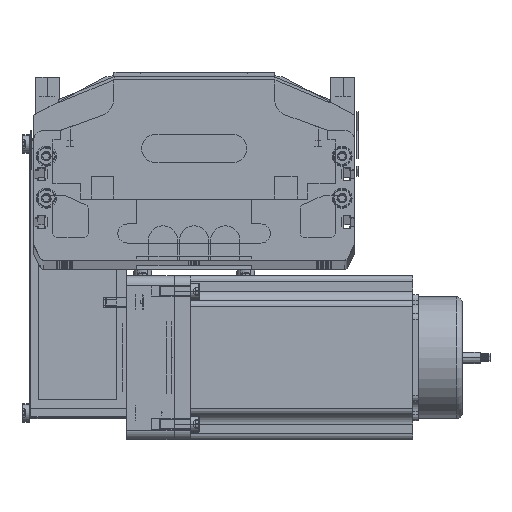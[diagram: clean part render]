
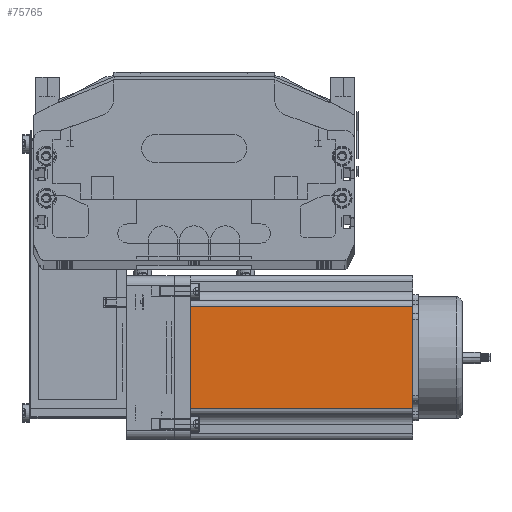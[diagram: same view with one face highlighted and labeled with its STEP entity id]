
A CAD part, top view. The second image highlights one B-rep face of the part: STEP entity #75765.
In plain terms, the highlighted planar face has unit normal (0, 0, 1) as drawn and (0, -1, 0) by its records, which use the part's own axes.
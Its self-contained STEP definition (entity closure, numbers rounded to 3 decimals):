
#75631 = EDGE_CURVE ( 'NONE', #75766, #75768, #85959, .T. ) ;
#75636 = ORIENTED_EDGE ( 'NONE', *, *, #75770, .F. ) ;
#75642 = ORIENTED_EDGE ( 'NONE', *, *, #75631, .T. ) ;
#75668 = VERTEX_POINT ( 'NONE', #86001 ) ;
#75680 = ORIENTED_EDGE ( 'NONE', *, *, #75759, .T. ) ;
#75698 = EDGE_CURVE ( 'NONE', #75842, #75668, #86102, .T. ) ;
#75707 = ORIENTED_EDGE ( 'NONE', *, *, #75698, .T. ) ;
#75752 = EDGE_LOOP ( 'NONE', ( #75680, #75642, #75636, #75707 ) ) ;
#75759 = EDGE_CURVE ( 'NONE', #75668, #75766, #85617, .T. ) ;
#75765 = ADVANCED_FACE ( 'NONE', ( #86179 ), #86176, .F. ) ;
#75766 = VERTEX_POINT ( 'NONE', #86181 ) ;
#75768 = VERTEX_POINT ( 'NONE', #86180 ) ;
#75770 = EDGE_CURVE ( 'NONE', #75842, #75768, #86174, .T. ) ;
#75842 = VERTEX_POINT ( 'NONE', #86220 ) ;
#85176 = VECTOR ( 'NONE', #85393, 1000. ) ;
#85177 = CARTESIAN_POINT ( 'NONE',  ( 0., 0., 0. ) ) ;
#85393 = DIRECTION ( 'NONE',  ( 1., 0., 0. ) ) ;
#85617 = LINE ( 'NONE', #85177, #85176 ) ;
#85959 = LINE ( 'NONE', #85996, #85995 ) ;
#85994 = DIRECTION ( 'NONE',  ( 0., 0., 1. ) ) ;
#85995 = VECTOR ( 'NONE', #85994, 1000. ) ;
#85996 = CARTESIAN_POINT ( 'NONE',  ( 69.74, 0., 116.5 ) ) ;
#86001 = CARTESIAN_POINT ( 'NONE',  ( 16.16, 0., 0. ) ) ;
#86044 = VECTOR ( 'NONE', #86096, 1000. ) ;
#86045 = CARTESIAN_POINT ( 'NONE',  ( 16.16, 0., 116.5 ) ) ;
#86096 = DIRECTION ( 'NONE',  ( 0., 0., -1. ) ) ;
#86102 = LINE ( 'NONE', #86045, #86044 ) ;
#86163 = DIRECTION ( 'NONE',  ( 1., 0., 0. ) ) ;
#86164 = VECTOR ( 'NONE', #86163, 1000. ) ;
#86165 = CARTESIAN_POINT ( 'NONE',  ( 0., 0., 116.5 ) ) ;
#86170 = DIRECTION ( 'NONE',  ( 0., 0., 1. ) ) ;
#86171 = DIRECTION ( 'NONE',  ( 0., 1., 0. ) ) ;
#86172 = CARTESIAN_POINT ( 'NONE',  ( 0., 0., 116.5 ) ) ;
#86173 = AXIS2_PLACEMENT_3D ( 'NONE', #86172, #86171, #86170 ) ;
#86174 = LINE ( 'NONE', #86165, #86164 ) ;
#86176 = PLANE ( 'NONE',  #86173 ) ;
#86179 = FACE_OUTER_BOUND ( 'NONE', #75752, .T. ) ;
#86180 = CARTESIAN_POINT ( 'NONE',  ( 69.74, 0., 116.5 ) ) ;
#86181 = CARTESIAN_POINT ( 'NONE',  ( 69.74, 0., 0. ) ) ;
#86220 = CARTESIAN_POINT ( 'NONE',  ( 16.16, 0., 116.5 ) ) ;
